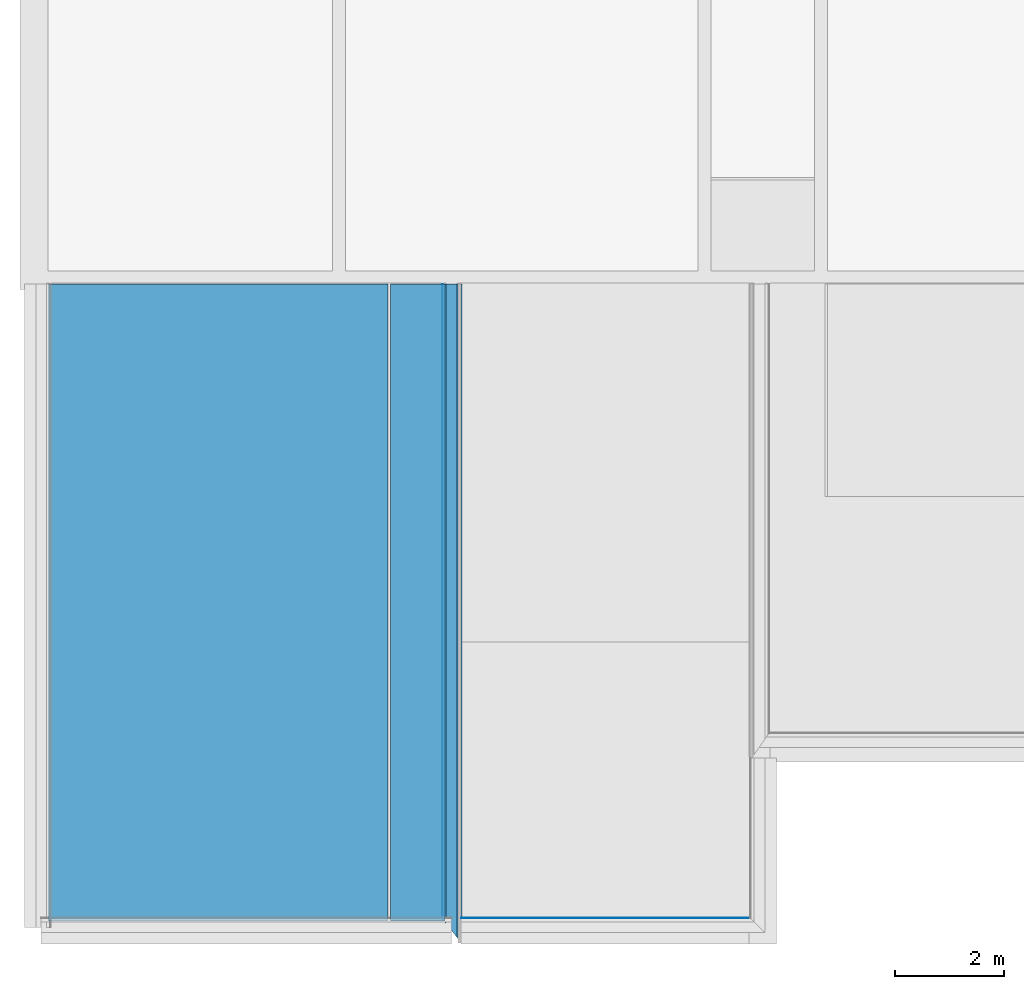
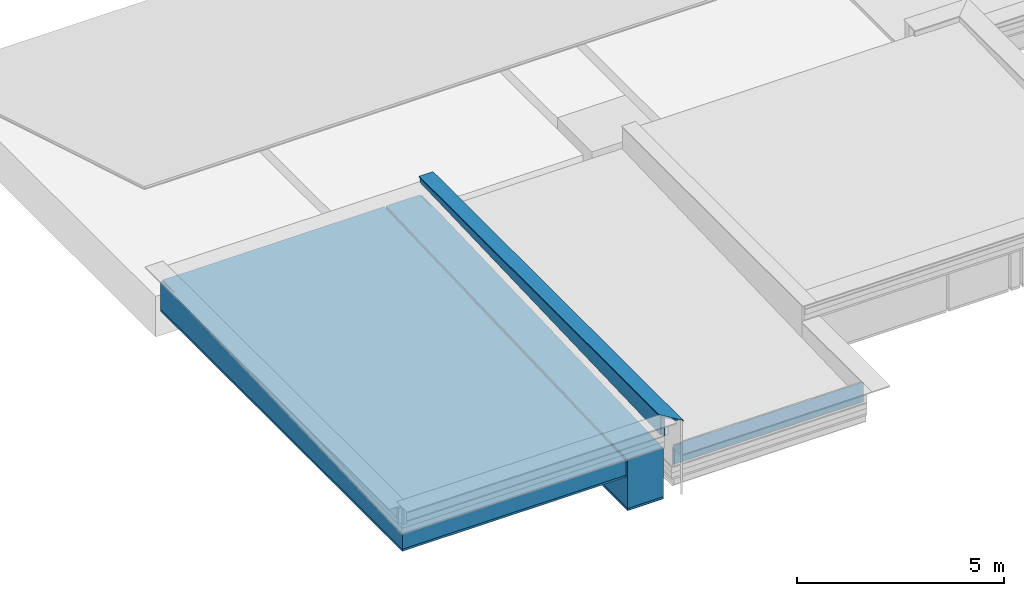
# One storey, part 2 of 13: 10 building element parts, 4 elements without a shape of their own.
"""IFC2X3 building model written with IfcOpenShell, lengths in metres."""

import ifcopenshell
import ifcopenshell.guid

model = None  # the IFC model being written
_history = None  # IfcOwnerHistory: only IFC2X3 demands one
_inside = {}  # id of a spatial element -> (the spatial element, [elements in it])
_under = {}  # id of a project, library or spatial element -> (it, [spatial elements below it])
_declared = {}  # id of a project -> (the project, [libraries it declares])
_typed = {}  # id of a type object -> (the type object, [elements of that type])
_made_of = {}  # id of a material, layer set ... -> (it, [elements and type objects made of it])


def new_model(schema):
    """Start an empty IFC model of exactly this schema.

    Asked for "IFC4X3", IfcOpenShell would pick the latest addendum, in which some entities
    have other attributes; the version numbers below select the first issue.
    IFC2X3 requires an IfcOwnerHistory on every rooted entity: one is made here for all.
    """
    global model, _history
    if schema == "IFC4X3":
        model = ifcopenshell.file(schema_version=(4, 3, 0, 0))
    else:
        model = ifcopenshell.file(schema=schema)
    _inside.clear()
    _under.clear()
    _declared.clear()
    _typed.clear()
    _made_of.clear()
    _history = None
    if model.schema == "IFC2X3":
        org = make("IfcOrganization", Name="unknown")
        user = make(
            "IfcPersonAndOrganization",
            ThePerson=make("IfcPerson", FamilyName="unknown"),
            TheOrganization=org,
        )
        app = make(
            "IfcApplication",
            ApplicationDeveloper=org,
            Version="unknown",
            ApplicationFullName="unknown",
            ApplicationIdentifier="unknown",
        )
        _history = make(
            "IfcOwnerHistory",
            OwningUser=user,
            OwningApplication=app,
            ChangeAction="ADDED",
            CreationDate=0,
        )
    return model


def make(cls, **values):
    """One entity of the class cls with the attributes given. An attribute that is None is left unset."""
    return model.create_entity(
        cls, **{name: value for name, value in values.items() if value is not None}
    )


def entity(cls, *values):
    """Any entity or typed value of the class cls, its attributes in the order of the schema. None: left unset."""
    e = model.create_entity(cls)
    for i, value in enumerate(values):
        if value is not None:
            e[i] = value
    return e


def rooted(cls, **values):
    """An entity with a GlobalId (a new one), such as an element, a storey or a relation."""
    return make(cls, GlobalId=ifcopenshell.guid.new(), OwnerHistory=_history, **values)


def si_unit(unit_type, name, prefix=None):
    """IfcSIUnit, for example si_unit("LENGTHUNIT", "METRE", prefix="MILLI")."""
    return make("IfcSIUnit", UnitType=unit_type, Prefix=prefix, Name=name)


def converted_unit(unit_type, name, factor, base, dimensions=None, offset=None):
    """IfcConversionBasedUnit, such as the inch: factor (a typed value) times the base unit."""
    return make(
        "IfcConversionBasedUnit"
        if offset is None
        else "IfcConversionBasedUnitWithOffset",
        ConversionOffset=offset,
        Dimensions=None
        if dimensions is None
        else entity("IfcDimensionalExponents", *dimensions),
        UnitType=unit_type,
        Name=name,
        ConversionFactor=make(
            "IfcMeasureWithUnit", ValueComponent=factor, UnitComponent=base
        ),
    )


def derived_unit(unit_type, elements):
    """IfcDerivedUnit: a product of units, each with its exponent."""
    return make(
        "IfcDerivedUnit",
        Elements=[
            make("IfcDerivedUnitElement", Unit=unit, Exponent=power)
            for unit, power in elements
        ],
        UnitType=unit_type,
    )


def money_unit(currency):
    """IfcMonetaryUnit."""
    return make("IfcMonetaryUnit", Currency=currency)


def assignment(units):
    """IfcUnitAssignment: the units of a project."""
    return None if units is None else make("IfcUnitAssignment", Units=units)


def point(xyz):
    """IfcCartesianPoint."""
    return None if xyz is None else make("IfcCartesianPoint", Coordinates=xyz)


def direction(xyz):
    """IfcDirection."""
    return None if xyz is None else make("IfcDirection", DirectionRatios=xyz)


def frame(location, z_axis=None, x_axis=None):
    """IfcAxis2Placement3D, a coordinate frame: its origin and axes. An axis left out is left unset."""
    return make(
        "IfcAxis2Placement3D",
        Location=point(location),
        Axis=direction(z_axis),
        RefDirection=direction(x_axis),
    )


def origin_with_axes():
    """The frame at (0, 0, 0) with the z axis (0, 0, 1) and the x axis (1, 0, 0) written out."""
    return frame((0.0, 0.0, 0.0), z_axis=(0.0, 0.0, 1.0), x_axis=(1.0, 0.0, 0.0))


def place(relative_to, where):
    """IfcLocalPlacement: puts the frame where relative to a parent placement (None: the world)."""
    return make(
        "IfcLocalPlacement", PlacementRelTo=relative_to, RelativePlacement=where
    )


def context(
    kind, dimensions, precision=None, world=None, true_north=None, identifier=None
):
    """IfcGeometricRepresentationContext, for example the 3D "Model" context."""
    return make(
        "IfcGeometricRepresentationContext",
        ContextIdentifier=identifier,
        ContextType=kind,
        CoordinateSpaceDimension=dimensions,
        Precision=precision,
        WorldCoordinateSystem=world,
        TrueNorth=true_north,
    )


def subcontext(parent, identifier, kind, view, scale=None):
    """IfcGeometricRepresentationSubContext, for example "Body" below "Model"."""
    return make(
        "IfcGeometricRepresentationSubContext",
        ContextIdentifier=identifier,
        ContextType=kind,
        ParentContext=parent,
        TargetScale=scale,
        TargetView=view,
    )


def project(units=None, contexts=None):
    """IfcProject with its units and contexts."""
    return rooted(
        "IfcProject",
        Name="project",
        RepresentationContexts=contexts,
        UnitsInContext=assignment(units),
    )


def spatial(cls, under=None, at=None, **own):
    """A site, building, storey or space (cls), placed at a placement, below another one or the project."""
    s = rooted(cls, ObjectPlacement=at, **own)
    if under is not None:
        _under.setdefault(under.id(), (under, []))[1].append(s)
    return s


def polyline(points):
    """IfcPolyline through the points."""
    return make("IfcPolyline", Points=[point(p) for p in points])


def outline(outer, holes=None, kind="AREA"):
    """IfcArbitraryClosedProfileDef: a profile drawn as a closed curve; with holes, ...WithVoids."""
    if holes is None:
        return make("IfcArbitraryClosedProfileDef", ProfileType=kind, OuterCurve=outer)
    return make(
        "IfcArbitraryProfileDefWithVoids",
        ProfileType=kind,
        OuterCurve=outer,
        InnerCurves=holes,
    )


def extrude(swept, where, along, depth):
    """IfcExtrudedAreaSolid: the profile swept, set in the frame where, extruded along a direction by depth."""
    return make(
        "IfcExtrudedAreaSolid",
        SweptArea=swept,
        Position=where,
        ExtrudedDirection=direction(along),
        Depth=depth,
    )


def boolean(op, a, b):
    """IfcBooleanResult of two solids."""
    return make("IfcBooleanResult", Operator=op, FirstOperand=a, SecondOperand=b)


def faces_of(points, faces, orient=None, outer=None):
    """IfcFace entities. A face is a list of loops; a loop is a list of indices into points, from 0.

    orient and outer hold one flag for each loop. By default every Orientation is true, the
    first loop of a face is its IfcFaceOuterBound and the others are IfcFaceBound.
    """
    made = []
    for i, loops in enumerate(faces):
        bounds = []
        for j, loop in enumerate(loops):
            is_outer = j == 0 if outer is None else outer[i][j]
            bounds.append(
                make(
                    "IfcFaceOuterBound" if is_outer else "IfcFaceBound",
                    Bound=make("IfcPolyLoop", Polygon=[points[k] for k in loop]),
                    Orientation=True if orient is None else orient[i][j],
                )
            )
        made.append(make("IfcFace", Bounds=bounds))
    return made


def faceted_brep(points, faces, orient=None, outer=None, voids=None):
    """IfcFacetedBrep: a solid bounded by flat faces; with voids (closed shells), ...WithVoids."""
    shared = [point(p) for p in points]
    hull = make("IfcClosedShell", CfsFaces=faces_of(shared, faces, orient, outer))
    if voids is None:
        return make("IfcFacetedBrep", Outer=hull)
    return make(
        "IfcFacetedBrepWithVoids",
        Outer=hull,
        Voids=[
            make(cls, CfsFaces=faces_of(shared, fs, o, b)) for cls, fs, o, b in voids
        ],
    )


def shape(context_of_items, identifier, shape_type, items):
    """IfcShapeRepresentation: the items that make up one representation, for example the "Body"."""
    return make(
        "IfcShapeRepresentation",
        ContextOfItems=context_of_items,
        RepresentationIdentifier=identifier,
        RepresentationType=shape_type,
        Items=items,
    )


def material(Name=None, Category=None):
    """IfcMaterial."""
    return make("IfcMaterial", Name=Name, Category=Category)


def made_of(thing, what):
    """Note that an element or type object is made of a material, layer set ...; save() writes the relation."""
    if what is not None:
        _made_of.setdefault(what.id(), (what, []))[1].append(thing)
    return thing


def type_object(cls, material=None, **own):
    """A type object (cls), such as IfcWallType, which elements share."""
    return made_of(rooted(cls, **own), material)


def element(
    cls,
    number,
    at=None,
    inside=None,
    cuts=None,
    type_object=None,
    material=None,
    context=None,
    identifier="Body",
    shape_type=None,
    held_by="IfcProductDefinitionShape",
    body=None,
    shapes=None,
    **own,
):
    """One element of the class cls, such as IfcWall. Its Tag is "e" and its number.

    at: its placement. inside: the storey or other place that contains it. cuts: it is an
    opening in that element (IfcRelVoidsElement). A single representation is given by context,
    identifier, shape_type and body (its items); several are given by shapes. held_by: the class
    of the entity that holds the representations. save() writes the other relations.
    """
    e = rooted(cls, Tag="e%d" % number, ObjectPlacement=at, **own)
    if body is not None:
        shapes = [shape(context, identifier, shape_type, body)]
    if shapes is not None:
        e.Representation = make(held_by, Representations=shapes)
    if inside is not None:
        _inside.setdefault(inside.id(), (inside, []))[1].append(e)
    if cuts is not None:
        rooted(
            "IfcRelVoidsElement", RelatingBuildingElement=cuts, RelatedOpeningElement=e
        )
    if type_object is not None:
        _typed.setdefault(type_object.id(), (type_object, []))[1].append(e)
    return made_of(e, material)


def aggregate(whole, parts):
    """IfcRelAggregates: a whole, such as a stair, and the parts it consists of."""
    return rooted("IfcRelAggregates", RelatingObject=whole, RelatedObjects=parts)


def save(model, path):
    """Write the relations noted so far, then the file.

    IfcRelAggregates (storeys below a building ...), IfcRelContainedInSpatialStructure (elements
    in a storey), IfcRelDefinesByType, IfcRelAssociatesMaterial and IfcRelDeclares: one each for
    every whole, place, type object, material and project.
    """
    for whole, parts in _under.values():
        aggregate(whole, parts)
    for where, things in _inside.values():
        rooted(
            "IfcRelContainedInSpatialStructure",
            RelatedElements=things,
            RelatingStructure=where,
        )
    for kind, things in _typed.values():
        rooted("IfcRelDefinesByType", RelatedObjects=things, RelatingType=kind)
    for what, things in _made_of.values():
        rooted("IfcRelAssociatesMaterial", RelatedObjects=things, RelatingMaterial=what)
    for by, libraries in _declared.values():
        rooted("IfcRelDeclares", RelatingContext=by, RelatedDefinitions=libraries)
    model.write(path)


model = new_model("IFC2X3")

# Units and contexts
model_context = context("Model", 3, precision=1e-05, world=origin_with_axes(), true_north=direction((0.0, 1.0)))
body_context = subcontext(model_context, "Body", "Model", "MODEL_VIEW")
ifc_project = project(units=[si_unit("LENGTHUNIT", "METRE"), si_unit("AREAUNIT", "SQUARE_METRE"), si_unit("VOLUMEUNIT", "CUBIC_METRE"), converted_unit("PLANEANGLEUNIT", "DEGREE", entity("IfcPlaneAngleMeasure", 0.0174532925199), si_unit("PLANEANGLEUNIT", "RADIAN"), dimensions=[0, 0, 0, 0, 0, 0, 0]), money_unit("CHF"), converted_unit("TIMEUNIT", "Year", entity("IfcTimeMeasure", 31556926.0), si_unit("TIMEUNIT", "SECOND"), dimensions=[0, 0, 1, 0, 0, 0, 0]), si_unit("MASSUNIT", "GRAM", prefix="KILO"), si_unit("THERMODYNAMICTEMPERATUREUNIT", "DEGREE_CELSIUS"), si_unit("LUMINOUSINTENSITYUNIT", "LUMEN"), si_unit("ENERGYUNIT", "JOULE", prefix="MEGA"), derived_unit("THERMALCONDUCTANCEUNIT", [(si_unit("POWERUNIT", "WATT"), 1), (si_unit("LENGTHUNIT", "METRE"), -1), (si_unit("THERMODYNAMICTEMPERATUREUNIT", "KELVIN"), -1)]), derived_unit("SPECIFICHEATCAPACITYUNIT", [(si_unit("ENERGYUNIT", "JOULE"), 1), (si_unit("MASSUNIT", "GRAM", prefix="KILO"), -1), (si_unit("THERMODYNAMICTEMPERATUREUNIT", "KELVIN"), -1)]), derived_unit("MASSDENSITYUNIT", [(si_unit("MASSUNIT", "GRAM", prefix="KILO"), 1), (si_unit("VOLUMEUNIT", "CUBIC_METRE"), -1)])], contexts=[model_context])

# Site, building, storey
site_placement = place(None, origin_with_axes())
site = spatial("IfcSite", under=ifc_project, at=site_placement, Name="Site", CompositionType="ELEMENT")
building_placement = place(site_placement, origin_with_axes())
building = spatial("IfcBuilding", under=site, at=building_placement, Name="Bâtiment", CompositionType="ELEMENT")
storey_placement = place(building_placement, frame((0.0, 0.0, 3.0), z_axis=(0.0, 0.0, 1.0), x_axis=(1.0, 0.0, 0.0)))
storey = spatial("IfcBuildingStorey", under=building, at=storey_placement, Name="Toitures", CompositionType="ELEMENT", Elevation=3.0)

# Slab, building element parts
slab_type = type_object("IfcSlabType", Name="Plafond dalles minérale 2570", PredefinedType="FLOOR")
slab_1_placement = place(storey_placement, frame((11.2694697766, 14.88, 3.07), z_axis=(0.0, 0.0, 1.0), x_axis=(1.0, 0.0, 0.0)))
slab_1 = element("IfcSlab", 1, at=slab_1_placement, inside=storey, type_object=slab_type, Name="Plafond acoustique suspendu", PredefinedType="FLOOR")
ifc_material_1 = material(Name="Aluminium")
building_element_part_1_placement = place(slab_1_placement, origin_with_axes())
building_element_part_1 = element("IfcBuildingElementPart", 2, at=building_element_part_1_placement, material=ifc_material_1, Name="Aluminium", context=body_context, shape_type="CSG", body=[
    boolean("DIFFERENCE", extrude(outline(polyline([(0.0, 0.0), (0.0, -11.6998344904), (6.25, -11.6998344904), (6.25, 0.0), (0.0, 0.0)])), frame((0.0, 0.0, -2.56), z_axis=(0.0, 0.0, 1.0), x_axis=(1.0, 0.0, 0.0)), (0.0, 0.0, 1.0), 0.06), faceted_brep([(6.25, -11.6998344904, -2.06519420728), (6.25, 0.0, -1.65570000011), (6.25, 0.0, 0.0), (6.25, -11.6998344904, 0.0), (0.0549999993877, 0.0, -1.65570000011), (0.0, -11.6998344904, -2.06519420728), (0.0, -0.969704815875, -1.68963966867), (0.0549999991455, -0.969704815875, -1.68963966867), (0.0549999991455, 0.0, -1.68963966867), (0.0, 0.0, -1.68963966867), (0.0, 0.0, 0.0), (0.0, -11.6998344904, 0.0)], [[[0, 1, 2, 3]], [[4, 1, 0, 5, 6, 7]], [[8, 9, 10, 2, 1, 4]], [[3, 2, 10, 11]], [[5, 0, 3, 11]], [[6, 5, 11, 10, 9]], [[9, 8, 7, 6]], [[8, 4, 7]]])),
])
ifc_material_2 = material(Name="Vide faux plafond")
building_element_part_2_placement = place(slab_1_placement, origin_with_axes())
building_element_part_2 = element("IfcBuildingElementPart", 3, at=building_element_part_2_placement, material=ifc_material_2, Name="Vide faux plafond", context=body_context, shape_type="CSG", body=[
    boolean("DIFFERENCE", extrude(outline(polyline([(0.0, 0.0), (0.0, -11.6998344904), (6.25, -11.6998344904), (6.25, 0.0), (0.0, 0.0)])), frame((0.0, 0.0, -2.5), z_axis=(0.0, 0.0, 1.0), x_axis=(1.0, 0.0, 0.0)), (0.0, 0.0, 1.0), 2.5), faceted_brep([(6.25, -11.6998344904, -2.06519420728), (6.25, 0.0, -1.65570000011), (6.25, 0.0, 0.0), (6.25, -11.6998344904, 0.0), (0.0549999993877, 0.0, -1.65570000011), (0.0, -11.6998344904, -2.06519420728), (0.0, -0.969704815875, -1.68963966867), (0.0549999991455, -0.969704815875, -1.68963966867), (0.0549999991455, 0.0, -1.68963966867), (0.0, 0.0, -1.68963966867), (0.0, 0.0, 0.0), (0.0, -11.6998344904, 0.0)], [[[0, 1, 2, 3]], [[4, 1, 0, 5, 6, 7]], [[8, 9, 10, 2, 1, 4]], [[3, 2, 10, 11]], [[5, 0, 3, 11]], [[6, 5, 11, 10, 9]], [[9, 8, 7, 6]], [[8, 4, 7]]])),
])
aggregate(slab_1, [building_element_part_1, building_element_part_2])

slab_2_placement = place(storey_placement, frame((17.5694697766, 14.88, 2.07), z_axis=(0.0, 0.0, 1.0), x_axis=(1.0, 0.0, 0.0)))
slab_2 = element("IfcSlab", 4, at=slab_2_placement, inside=storey, type_object=slab_type, Name="DALLE-005", PredefinedType="FLOOR")
ifc_material_3 = material(Name="Plaque fibre-gypse")
building_element_part_3_placement = place(slab_2_placement, origin_with_axes())
building_element_part_3 = element("IfcBuildingElementPart", 5, at=building_element_part_3_placement, material=ifc_material_3, Name="Plaque fibre-gypse", context=body_context, shape_type="CSG", body=[
    boolean("DIFFERENCE", extrude(outline(polyline([(0.0, 0.0), (0.0, -11.6998344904), (1.0, -11.6998344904), (1.0, 0.0), (0.0, 0.0)])), frame((0.0, 0.0, -2.57), z_axis=(0.0, 0.0, 1.0), x_axis=(1.0, 0.0, 0.0)), (0.0, 0.0, 1.0), 0.01), faceted_brep([(1.0, -11.6998344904, -1.06519420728), (1.0, -0.969704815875, -0.689639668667), (1.0, 0.0, -0.689639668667), (1.0, 0.0, 0.0), (1.0, -11.6998344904, 0.0), (0.0, -11.6998344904, -1.06519420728), (0.0, 0.0, -0.655700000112), (0.945, 0.0, -0.655700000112), (0.945, -0.969704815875, -0.689639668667), (0.945, 0.0, -0.689639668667), (0.0, 0.0, 0.0), (0.0, -11.6998344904, 0.0)], [[[0, 1, 2, 3, 4]], [[1, 0, 5, 6, 7, 8]], [[9, 2, 1, 8]], [[7, 6, 10, 3, 2, 9]], [[4, 3, 10, 11]], [[5, 0, 4, 11]], [[6, 5, 11, 10]], [[7, 9, 8]]])),
])
building_element_part_4_placement = place(slab_2_placement, origin_with_axes())
building_element_part_4 = element("IfcBuildingElementPart", 6, at=building_element_part_4_placement, material=ifc_material_1, Name="Aluminium", context=body_context, shape_type="CSG", body=[
    boolean("DIFFERENCE", extrude(outline(polyline([(0.0, 0.0), (0.0, -11.6998344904), (1.0, -11.6998344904), (1.0, 0.0), (0.0, 0.0)])), frame((0.0, 0.0, -2.56), z_axis=(0.0, 0.0, 1.0), x_axis=(1.0, 0.0, 0.0)), (0.0, 0.0, 1.0), 0.06), faceted_brep([(1.0, -11.6998344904, -1.06519420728), (1.0, -0.969704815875, -0.689639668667), (1.0, 0.0, -0.689639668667), (1.0, 0.0, 0.0), (1.0, -11.6998344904, 0.0), (0.0, -11.6998344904, -1.06519420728), (0.0, 0.0, -0.655700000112), (0.945, 0.0, -0.655700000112), (0.945, -0.969704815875, -0.689639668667), (0.945, 0.0, -0.689639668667), (0.0, 0.0, 0.0), (0.0, -11.6998344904, 0.0)], [[[0, 1, 2, 3, 4]], [[1, 0, 5, 6, 7, 8]], [[9, 2, 1, 8]], [[7, 6, 10, 3, 2, 9]], [[4, 3, 10, 11]], [[5, 0, 4, 11]], [[6, 5, 11, 10]], [[7, 9, 8]]])),
])
building_element_part_5_placement = place(slab_2_placement, origin_with_axes())
building_element_part_5 = element("IfcBuildingElementPart", 7, at=building_element_part_5_placement, material=ifc_material_2, Name="Vide faux plafond", context=body_context, shape_type="CSG", body=[
    boolean("DIFFERENCE", extrude(outline(polyline([(0.0, 0.0), (0.0, -11.6998344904), (1.0, -11.6998344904), (1.0, 0.0), (0.0, 0.0)])), frame((0.0, 0.0, -2.5), z_axis=(0.0, 0.0, 1.0), x_axis=(1.0, 0.0, 0.0)), (0.0, 0.0, 1.0), 2.5), faceted_brep([(1.0, -11.6998344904, -1.06519420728), (1.0, -0.969704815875, -0.689639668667), (1.0, 0.0, -0.689639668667), (1.0, 0.0, 0.0), (1.0, -11.6998344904, 0.0), (0.0, -11.6998344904, -1.06519420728), (0.0, 0.0, -0.655700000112), (0.945, 0.0, -0.655700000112), (0.945, -0.969704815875, -0.689639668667), (0.945, 0.0, -0.689639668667), (0.0, 0.0, 0.0), (0.0, -11.6998344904, 0.0)], [[[0, 1, 2, 3, 4]], [[1, 0, 5, 6, 7, 8]], [[9, 2, 1, 8]], [[7, 6, 10, 3, 2, 9]], [[4, 3, 10, 11]], [[5, 0, 4, 11]], [[6, 5, 11, 10]], [[7, 9, 8]]])),
])
aggregate(slab_2, [building_element_part_3, building_element_part_4, building_element_part_5])

# Beam, building element parts
beam_type_1 = type_object("IfcBeamType", Name="Couvertine mur  390 x 590", PredefinedType="BEAM")
beam_1_placement = place(storey_placement, frame((18.6894697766, 3.06016550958, 1.97), z_axis=(0.0, 0.0, 1.0), x_axis=(1.0, 0.0, 0.0)))
beam_1 = element("IfcBeam", 8, at=beam_1_placement, inside=storey, type_object=beam_type_1, Name="POUTRE-001", ObjectType="BEAM")
ifc_material_4 = material(Name="Etanchéité")
building_element_part_6_placement = place(beam_1_placement, origin_with_axes())
building_element_part_6 = element("IfcBuildingElementPart", 9, at=building_element_part_6_placement, material=ifc_material_4, Name="Etanchéité", context=body_context, shape_type="CSG", body=[
    boolean("DIFFERENCE", boolean("DIFFERENCE", boolean("DIFFERENCE", boolean("DIFFERENCE", boolean("DIFFERENCE", boolean("DIFFERENCE", extrude(outline(polyline([(-0.175, -0.589639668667), (-0.165000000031, -0.589639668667), (-0.165000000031, -0.0549999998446), (-0.165000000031, -0.005), (-0.175, -0.005), (-0.175, -0.589639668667)])), frame((0.0, 11.8198344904, 0.0), z_axis=(0.0, -1.0, 0.0), x_axis=(1.0, 0.0, 0.0)), (0.0, 0.0, 1.0), 12.1298544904), faceted_brep([(-0.165000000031, 0.156153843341, -0.0549999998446), (-0.165000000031, 0.156153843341, -0.005), (-0.165000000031, -0.31002, -0.005), (-0.165000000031, -0.31002, -0.0549999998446), (-0.175, 0.169102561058, -0.005), (-0.165000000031, 0.156153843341, -0.589639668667), (-0.175, 0.169102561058, -0.589639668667), (-0.175, -0.31002, -0.005), (-0.175, -0.31002, -0.589639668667), (-0.165000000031, -0.31002, -0.589639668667)], [[[0, 1, 2, 3]], [[4, 1, 0, 5, 6]], [[1, 4, 7, 2]], [[2, 7, 8, 9, 3]], [[5, 0, 3, 9]], [[6, 5, 9, 8]], [[4, 6, 8, 7]]])), faceted_brep([(-0.175, 11.8198344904, -0.185473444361), (-0.165000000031, 11.8198344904, -0.185473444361), (-0.165000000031, 11.8198344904, -0.589639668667), (-0.175, 11.8198344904, -0.589639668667), (-0.165000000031, 0.272228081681, -0.589639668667), (-0.175, 0.272228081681, -0.589639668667)], [[[0, 1, 2, 3]], [[4, 1, 0, 5]], [[1, 4, 2]], [[4, 5, 3, 2]], [[5, 0, 3]]])), faceted_brep([(0.195000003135, -0.31002, -0.0300000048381), (0.195000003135, -0.31, -0.0300000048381), (0.195000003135, -0.31, 2.8375835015e-09), (0.195000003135, -0.31002, 2.8375835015e-09), (0.190000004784, -0.31002, -0.0300000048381), (0.190000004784, -0.303525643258, -0.0300000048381), (-0.195, 0.194999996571, -0.0300000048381), (-0.195, 0.194999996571, 2.83758261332e-09), (0.190000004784, -0.303525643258, -0.00500000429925), (0.0999999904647, -0.186987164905, -0.005), (-0.165, 0.156153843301, -0.005), (-0.174999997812, 0.169102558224, -0.00500000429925), (-0.190000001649, 0.188525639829, -0.00500000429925), (-0.190000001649, 0.188525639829, -0.0300000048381), (-0.195, -0.31002, 2.8375835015e-09), (-0.195, -0.31002, -0.0300000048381), (-0.190000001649, -0.31002, -0.0300000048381), (-0.190000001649, -0.31002, -0.00500000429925), (-0.174999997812, -0.31002, -0.00500000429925), (-0.165000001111, -0.31002, -0.00500000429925), (0.0999999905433, -0.31002, -0.00500000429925), (0.190000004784, -0.31002, -0.00500000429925)], [[[0, 1, 2, 3]], [[4, 5, 1, 0]], [[6, 7, 2, 1, 5, 8, 9, 10, 11, 12, 13]], [[3, 2, 7, 14]], [[3, 14, 15, 16, 17, 18, 19, 20, 21, 4, 0]], [[21, 8, 5, 4]], [[14, 7, 6, 15]], [[20, 9, 8, 21]], [[19, 10, 9, 20]], [[18, 11, 10, 19]], [[17, 12, 11, 18]], [[16, 13, 12, 17]], [[15, 6, 13, 16]]])), faceted_brep([(0.0999999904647, -0.31002, -0.0549999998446), (0.0999999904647, -0.186987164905, -0.0549999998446), (0.0999999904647, -0.186987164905, -0.005), (0.0999999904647, -0.31002, -0.005), (-0.0999999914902, -0.31002, -0.0549999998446), (-0.0999999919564, 0.071987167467, -0.055), (-0.165, 0.156153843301, -0.005), (-0.165, 0.156153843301, -0.0549999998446), (-0.165, -0.31002, -0.005), (-0.165, -0.31002, -0.0549999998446)], [[[0, 1, 2, 3]], [[4, 5, 1, 0]], [[6, 2, 1, 5, 7]], [[3, 2, 6, 8]], [[0, 3, 8, 9, 4]], [[9, 7, 5, 4]], [[8, 6, 7, 9]]])), faceted_brep([(-0.0999999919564, -0.31002, -0.589639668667), (-0.0999999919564, 0.071987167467, -0.589639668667), (-0.0999999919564, 0.071987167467, -0.055), (-0.0999999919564, -0.31002, -0.055), (-0.165, -0.31002, -0.589639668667), (-0.165, 0.156153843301, -0.589639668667), (-0.165, 0.156153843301, -0.055), (-0.165, -0.31002, -0.055)], [[[0, 1, 2, 3]], [[4, 5, 1, 0]], [[5, 6, 2, 1]], [[3, 2, 6, 7]], [[4, 0, 3, 7]], [[7, 6, 5, 4]]])), faceted_brep([(-0.165, 11.8198344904, -0.589639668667), (-0.165, 11.8198344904, -0.185473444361), (-0.1, 11.8198344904, -0.185473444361), (-0.0999999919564, 11.8198344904, -0.589639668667), (-0.165, 0.272228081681, -0.589639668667), (-0.1, 0.272228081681, -0.589639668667)], [[[0, 1, 2, 3]], [[0, 4, 1]], [[4, 5, 2, 1]], [[3, 2, 5]], [[3, 5, 4, 0]]])),
])
building_element_part_7_placement = place(beam_1_placement, origin_with_axes())
building_element_part_7 = element("IfcBuildingElementPart", 10, at=building_element_part_7_placement, material=ifc_material_1, Name="Aluminium", context=body_context, shape_type="CSG", body=[
    boolean("DIFFERENCE", boolean("DIFFERENCE", boolean("DIFFERENCE", boolean("DIFFERENCE", boolean("DIFFERENCE", boolean("DIFFERENCE", extrude(outline(polyline([(-0.195, -0.0300000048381), (-0.190000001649, -0.0300000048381), (-0.190000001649, -0.00500000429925), (-0.174999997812, -0.00500000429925), (-0.165000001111, -0.00500000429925), (0.0999999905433, -0.00500000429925), (0.190000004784, -0.00500000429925), (0.190000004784, -0.0300000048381), (0.195000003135, -0.0300000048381), (0.195000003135, 2.83758305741e-09), (-0.195, 2.83758305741e-09), (-0.195, -0.0300000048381)])), frame((0.0, 11.8198344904, 0.0), z_axis=(0.0, -1.0, 0.0), x_axis=(1.0, 0.0, 0.0)), (0.0, 0.0, 1.0), 12.1298544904), faceted_brep([(-0.165000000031, 0.156153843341, -0.0549999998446), (-0.165000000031, 0.156153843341, -0.005), (-0.165000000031, -0.31002, -0.005), (-0.165000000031, -0.31002, -0.0549999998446), (-0.175, 0.169102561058, -0.005), (-0.165000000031, 0.156153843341, -0.589639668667), (-0.175, 0.169102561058, -0.589639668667), (-0.175, -0.31002, -0.005), (-0.175, -0.31002, -0.589639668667), (-0.165000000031, -0.31002, -0.589639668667)], [[[0, 1, 2, 3]], [[4, 1, 0, 5, 6]], [[1, 4, 7, 2]], [[2, 7, 8, 9, 3]], [[5, 0, 3, 9]], [[6, 5, 9, 8]], [[4, 6, 8, 7]]])), faceted_brep([(-0.175, 11.8198344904, -0.185473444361), (-0.165000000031, 11.8198344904, -0.185473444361), (-0.165000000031, 11.8198344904, -0.589639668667), (-0.175, 11.8198344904, -0.589639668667), (-0.165000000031, 0.272228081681, -0.589639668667), (-0.175, 0.272228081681, -0.589639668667)], [[[0, 1, 2, 3]], [[4, 1, 0, 5]], [[1, 4, 2]], [[4, 5, 3, 2]], [[5, 0, 3]]])), faceted_brep([(0.195000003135, -0.31002, -0.0300000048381), (0.195000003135, -0.31, -0.0300000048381), (0.195000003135, -0.31, 2.8375835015e-09), (0.195000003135, -0.31002, 2.8375835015e-09), (0.190000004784, -0.31002, -0.0300000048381), (0.190000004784, -0.303525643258, -0.0300000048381), (-0.195, 0.194999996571, -0.0300000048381), (-0.195, 0.194999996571, 2.83758261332e-09), (0.190000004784, -0.303525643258, -0.00500000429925), (0.0999999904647, -0.186987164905, -0.005), (-0.165, 0.156153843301, -0.005), (-0.174999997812, 0.169102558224, -0.00500000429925), (-0.190000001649, 0.188525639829, -0.00500000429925), (-0.190000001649, 0.188525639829, -0.0300000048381), (-0.195, -0.31002, 2.8375835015e-09), (-0.195, -0.31002, -0.0300000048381), (-0.190000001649, -0.31002, -0.0300000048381), (-0.190000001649, -0.31002, -0.00500000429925), (-0.174999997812, -0.31002, -0.00500000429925), (-0.165000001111, -0.31002, -0.00500000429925), (0.0999999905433, -0.31002, -0.00500000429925), (0.190000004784, -0.31002, -0.00500000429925)], [[[0, 1, 2, 3]], [[4, 5, 1, 0]], [[6, 7, 2, 1, 5, 8, 9, 10, 11, 12, 13]], [[3, 2, 7, 14]], [[3, 14, 15, 16, 17, 18, 19, 20, 21, 4, 0]], [[21, 8, 5, 4]], [[14, 7, 6, 15]], [[20, 9, 8, 21]], [[19, 10, 9, 20]], [[18, 11, 10, 19]], [[17, 12, 11, 18]], [[16, 13, 12, 17]], [[15, 6, 13, 16]]])), faceted_brep([(0.0999999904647, -0.31002, -0.0549999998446), (0.0999999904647, -0.186987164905, -0.0549999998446), (0.0999999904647, -0.186987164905, -0.005), (0.0999999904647, -0.31002, -0.005), (-0.0999999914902, -0.31002, -0.0549999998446), (-0.0999999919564, 0.071987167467, -0.055), (-0.165, 0.156153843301, -0.005), (-0.165, 0.156153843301, -0.0549999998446), (-0.165, -0.31002, -0.005), (-0.165, -0.31002, -0.0549999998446)], [[[0, 1, 2, 3]], [[4, 5, 1, 0]], [[6, 2, 1, 5, 7]], [[3, 2, 6, 8]], [[0, 3, 8, 9, 4]], [[9, 7, 5, 4]], [[8, 6, 7, 9]]])), faceted_brep([(-0.0999999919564, -0.31002, -0.589639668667), (-0.0999999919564, 0.071987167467, -0.589639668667), (-0.0999999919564, 0.071987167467, -0.055), (-0.0999999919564, -0.31002, -0.055), (-0.165, -0.31002, -0.589639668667), (-0.165, 0.156153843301, -0.589639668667), (-0.165, 0.156153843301, -0.055), (-0.165, -0.31002, -0.055)], [[[0, 1, 2, 3]], [[4, 5, 1, 0]], [[5, 6, 2, 1]], [[3, 2, 6, 7]], [[4, 0, 3, 7]], [[7, 6, 5, 4]]])), faceted_brep([(-0.165, 11.8198344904, -0.589639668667), (-0.165, 11.8198344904, -0.185473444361), (-0.1, 11.8198344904, -0.185473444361), (-0.0999999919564, 11.8198344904, -0.589639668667), (-0.165, 0.272228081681, -0.589639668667), (-0.1, 0.272228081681, -0.589639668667)], [[[0, 1, 2, 3]], [[0, 4, 1]], [[4, 5, 2, 1]], [[3, 2, 5]], [[3, 5, 4, 0]]])),
])
ifc_material_5 = material(Name="Isolation - Polyuréthane (extérieur)")
building_element_part_8_placement = place(beam_1_placement, origin_with_axes())
building_element_part_8 = element("IfcBuildingElementPart", 11, at=building_element_part_8_placement, material=ifc_material_5, Name="Isolation - Polyuréthane (extérieur)", context=body_context, shape_type="CSG", body=[
    boolean("DIFFERENCE", boolean("DIFFERENCE", boolean("DIFFERENCE", boolean("DIFFERENCE", boolean("DIFFERENCE", boolean("DIFFERENCE", extrude(outline(polyline([(-0.165, -0.005), (-0.165, -0.0549999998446), (-0.0999999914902, -0.0549999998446), (0.0999999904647, -0.0549999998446), (0.0999999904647, -0.005), (-0.165, -0.005)])), frame((0.0, 11.8198344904, 0.0), z_axis=(0.0, -1.0, 0.0), x_axis=(1.0, 0.0, 0.0)), (0.0, 0.0, 1.0), 12.1298544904), faceted_brep([(-0.165000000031, 0.156153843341, -0.0549999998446), (-0.165000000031, 0.156153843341, -0.005), (-0.165000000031, -0.31002, -0.005), (-0.165000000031, -0.31002, -0.0549999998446), (-0.175, 0.169102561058, -0.005), (-0.165000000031, 0.156153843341, -0.589639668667), (-0.175, 0.169102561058, -0.589639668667), (-0.175, -0.31002, -0.005), (-0.175, -0.31002, -0.589639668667), (-0.165000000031, -0.31002, -0.589639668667)], [[[0, 1, 2, 3]], [[4, 1, 0, 5, 6]], [[1, 4, 7, 2]], [[2, 7, 8, 9, 3]], [[5, 0, 3, 9]], [[6, 5, 9, 8]], [[4, 6, 8, 7]]])), faceted_brep([(-0.175, 11.8198344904, -0.185473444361), (-0.165000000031, 11.8198344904, -0.185473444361), (-0.165000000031, 11.8198344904, -0.589639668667), (-0.175, 11.8198344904, -0.589639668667), (-0.165000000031, 0.272228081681, -0.589639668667), (-0.175, 0.272228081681, -0.589639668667)], [[[0, 1, 2, 3]], [[4, 1, 0, 5]], [[1, 4, 2]], [[4, 5, 3, 2]], [[5, 0, 3]]])), faceted_brep([(0.195000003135, -0.31002, -0.0300000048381), (0.195000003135, -0.31, -0.0300000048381), (0.195000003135, -0.31, 2.8375835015e-09), (0.195000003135, -0.31002, 2.8375835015e-09), (0.190000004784, -0.31002, -0.0300000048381), (0.190000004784, -0.303525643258, -0.0300000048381), (-0.195, 0.194999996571, -0.0300000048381), (-0.195, 0.194999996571, 2.83758261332e-09), (0.190000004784, -0.303525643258, -0.00500000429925), (0.0999999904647, -0.186987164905, -0.005), (-0.165, 0.156153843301, -0.005), (-0.174999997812, 0.169102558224, -0.00500000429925), (-0.190000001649, 0.188525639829, -0.00500000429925), (-0.190000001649, 0.188525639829, -0.0300000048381), (-0.195, -0.31002, 2.8375835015e-09), (-0.195, -0.31002, -0.0300000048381), (-0.190000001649, -0.31002, -0.0300000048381), (-0.190000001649, -0.31002, -0.00500000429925), (-0.174999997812, -0.31002, -0.00500000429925), (-0.165000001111, -0.31002, -0.00500000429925), (0.0999999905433, -0.31002, -0.00500000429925), (0.190000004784, -0.31002, -0.00500000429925)], [[[0, 1, 2, 3]], [[4, 5, 1, 0]], [[6, 7, 2, 1, 5, 8, 9, 10, 11, 12, 13]], [[3, 2, 7, 14]], [[3, 14, 15, 16, 17, 18, 19, 20, 21, 4, 0]], [[21, 8, 5, 4]], [[14, 7, 6, 15]], [[20, 9, 8, 21]], [[19, 10, 9, 20]], [[18, 11, 10, 19]], [[17, 12, 11, 18]], [[16, 13, 12, 17]], [[15, 6, 13, 16]]])), faceted_brep([(0.0999999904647, -0.31002, -0.0549999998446), (0.0999999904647, -0.186987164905, -0.0549999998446), (0.0999999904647, -0.186987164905, -0.005), (0.0999999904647, -0.31002, -0.005), (-0.0999999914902, -0.31002, -0.0549999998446), (-0.0999999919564, 0.071987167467, -0.055), (-0.165, 0.156153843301, -0.005), (-0.165, 0.156153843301, -0.0549999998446), (-0.165, -0.31002, -0.005), (-0.165, -0.31002, -0.0549999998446)], [[[0, 1, 2, 3]], [[4, 5, 1, 0]], [[6, 2, 1, 5, 7]], [[3, 2, 6, 8]], [[0, 3, 8, 9, 4]], [[9, 7, 5, 4]], [[8, 6, 7, 9]]])), faceted_brep([(-0.0999999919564, -0.31002, -0.589639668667), (-0.0999999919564, 0.071987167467, -0.589639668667), (-0.0999999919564, 0.071987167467, -0.055), (-0.0999999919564, -0.31002, -0.055), (-0.165, -0.31002, -0.589639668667), (-0.165, 0.156153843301, -0.589639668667), (-0.165, 0.156153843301, -0.055), (-0.165, -0.31002, -0.055)], [[[0, 1, 2, 3]], [[4, 5, 1, 0]], [[5, 6, 2, 1]], [[3, 2, 6, 7]], [[4, 0, 3, 7]], [[7, 6, 5, 4]]])), faceted_brep([(-0.165, 11.8198344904, -0.589639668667), (-0.165, 11.8198344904, -0.185473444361), (-0.1, 11.8198344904, -0.185473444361), (-0.0999999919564, 11.8198344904, -0.589639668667), (-0.165, 0.272228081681, -0.589639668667), (-0.1, 0.272228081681, -0.589639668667)], [[[0, 1, 2, 3]], [[0, 4, 1]], [[4, 5, 2, 1]], [[3, 2, 5]], [[3, 5, 4, 0]]])),
])
building_element_part_9_placement = place(beam_1_placement, origin_with_axes())
building_element_part_9 = element("IfcBuildingElementPart", 12, at=building_element_part_9_placement, material=ifc_material_5, Name="Isolation - Polyuréthane (extérieur)", context=body_context, shape_type="CSG", body=[
    boolean("DIFFERENCE", boolean("DIFFERENCE", boolean("DIFFERENCE", boolean("DIFFERENCE", boolean("DIFFERENCE", boolean("DIFFERENCE", extrude(outline(polyline([(-0.0999999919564, -0.055), (-0.165, -0.055), (-0.165, -0.589639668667), (-0.0999999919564, -0.589639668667), (-0.0999999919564, -0.055)])), frame((0.0, 11.8198344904, 0.0), z_axis=(0.0, -1.0, 0.0), x_axis=(1.0, 0.0, 0.0)), (0.0, 0.0, 1.0), 12.1298544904), faceted_brep([(-0.165000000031, 0.156153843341, -0.0549999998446), (-0.165000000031, 0.156153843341, -0.005), (-0.165000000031, -0.31002, -0.005), (-0.165000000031, -0.31002, -0.0549999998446), (-0.175, 0.169102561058, -0.005), (-0.165000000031, 0.156153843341, -0.589639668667), (-0.175, 0.169102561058, -0.589639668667), (-0.175, -0.31002, -0.005), (-0.175, -0.31002, -0.589639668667), (-0.165000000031, -0.31002, -0.589639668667)], [[[0, 1, 2, 3]], [[4, 1, 0, 5, 6]], [[1, 4, 7, 2]], [[2, 7, 8, 9, 3]], [[5, 0, 3, 9]], [[6, 5, 9, 8]], [[4, 6, 8, 7]]])), faceted_brep([(-0.175, 11.8198344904, -0.185473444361), (-0.165000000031, 11.8198344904, -0.185473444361), (-0.165000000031, 11.8198344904, -0.589639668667), (-0.175, 11.8198344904, -0.589639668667), (-0.165000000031, 0.272228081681, -0.589639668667), (-0.175, 0.272228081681, -0.589639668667)], [[[0, 1, 2, 3]], [[4, 1, 0, 5]], [[1, 4, 2]], [[4, 5, 3, 2]], [[5, 0, 3]]])), faceted_brep([(0.195000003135, -0.31002, -0.0300000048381), (0.195000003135, -0.31, -0.0300000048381), (0.195000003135, -0.31, 2.8375835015e-09), (0.195000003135, -0.31002, 2.8375835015e-09), (0.190000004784, -0.31002, -0.0300000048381), (0.190000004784, -0.303525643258, -0.0300000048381), (-0.195, 0.194999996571, -0.0300000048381), (-0.195, 0.194999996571, 2.83758261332e-09), (0.190000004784, -0.303525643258, -0.00500000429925), (0.0999999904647, -0.186987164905, -0.005), (-0.165, 0.156153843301, -0.005), (-0.174999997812, 0.169102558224, -0.00500000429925), (-0.190000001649, 0.188525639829, -0.00500000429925), (-0.190000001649, 0.188525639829, -0.0300000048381), (-0.195, -0.31002, 2.8375835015e-09), (-0.195, -0.31002, -0.0300000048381), (-0.190000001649, -0.31002, -0.0300000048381), (-0.190000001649, -0.31002, -0.00500000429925), (-0.174999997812, -0.31002, -0.00500000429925), (-0.165000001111, -0.31002, -0.00500000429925), (0.0999999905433, -0.31002, -0.00500000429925), (0.190000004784, -0.31002, -0.00500000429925)], [[[0, 1, 2, 3]], [[4, 5, 1, 0]], [[6, 7, 2, 1, 5, 8, 9, 10, 11, 12, 13]], [[3, 2, 7, 14]], [[3, 14, 15, 16, 17, 18, 19, 20, 21, 4, 0]], [[21, 8, 5, 4]], [[14, 7, 6, 15]], [[20, 9, 8, 21]], [[19, 10, 9, 20]], [[18, 11, 10, 19]], [[17, 12, 11, 18]], [[16, 13, 12, 17]], [[15, 6, 13, 16]]])), faceted_brep([(0.0999999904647, -0.31002, -0.0549999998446), (0.0999999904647, -0.186987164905, -0.0549999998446), (0.0999999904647, -0.186987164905, -0.005), (0.0999999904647, -0.31002, -0.005), (-0.0999999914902, -0.31002, -0.0549999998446), (-0.0999999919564, 0.071987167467, -0.055), (-0.165, 0.156153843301, -0.005), (-0.165, 0.156153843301, -0.0549999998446), (-0.165, -0.31002, -0.005), (-0.165, -0.31002, -0.0549999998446)], [[[0, 1, 2, 3]], [[4, 5, 1, 0]], [[6, 2, 1, 5, 7]], [[3, 2, 6, 8]], [[0, 3, 8, 9, 4]], [[9, 7, 5, 4]], [[8, 6, 7, 9]]])), faceted_brep([(-0.0999999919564, -0.31002, -0.589639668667), (-0.0999999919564, 0.071987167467, -0.589639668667), (-0.0999999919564, 0.071987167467, -0.055), (-0.0999999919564, -0.31002, -0.055), (-0.165, -0.31002, -0.589639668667), (-0.165, 0.156153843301, -0.589639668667), (-0.165, 0.156153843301, -0.055), (-0.165, -0.31002, -0.055)], [[[0, 1, 2, 3]], [[4, 5, 1, 0]], [[5, 6, 2, 1]], [[3, 2, 6, 7]], [[4, 0, 3, 7]], [[7, 6, 5, 4]]])), faceted_brep([(-0.165, 11.8198344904, -0.589639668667), (-0.165, 11.8198344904, -0.185473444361), (-0.1, 11.8198344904, -0.185473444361), (-0.0999999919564, 11.8198344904, -0.589639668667), (-0.165, 0.272228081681, -0.589639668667), (-0.1, 0.272228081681, -0.589639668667)], [[[0, 1, 2, 3]], [[0, 4, 1]], [[4, 5, 2, 1]], [[3, 2, 5]], [[3, 5, 4, 0]]])),
])
aggregate(beam_1, [building_element_part_6, building_element_part_7, building_element_part_8, building_element_part_9])

# Beam, building element part
beam_type_2 = type_object("IfcBeamType", Name="couvertine mur iso 505 x 590", PredefinedType="BEAM")
beam_2_placement = place(storey_placement, frame((24.3494697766, 3.06016550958, 0.97), z_axis=(0.0, 0.0, 1.0), x_axis=(-1.47045133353e-08, 1.0, 0.0)))
beam_2 = element("IfcBeam", 13, at=beam_2_placement, inside=storey, type_object=beam_type_2, Name="POUTRE-002", ObjectType="BEAM")
building_element_part_10_placement = place(beam_2_placement, origin_with_axes())
building_element_part_10 = element("IfcBuildingElementPart", 14, at=building_element_part_10_placement, material=ifc_material_4, Name="Etanchéité", context=body_context, shape_type="CSG", body=[
    boolean("DIFFERENCE", boolean("DIFFERENCE", boolean("DIFFERENCE", boolean("DIFFERENCE", extrude(outline(polyline([(0.164999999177, -0.0549999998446), (0.164999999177, -0.589639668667), (0.174999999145, -0.589639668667), (0.174999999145, -0.005), (0.164999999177, -0.005), (0.164999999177, -0.0549999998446)])), frame((0.0, 5.48499997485, 0.0), z_axis=(0.0, -1.0, 0.0), x_axis=(1.0, 0.0, 0.0)), (0.0, 0.0, 1.0), 5.79501997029), faceted_brep([(0.174999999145, 0.174999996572, -0.005), (0.164999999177, 0.16499999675, -0.005), (0.164999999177, -0.310019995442, -0.005), (0.174999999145, -0.310019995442, -0.005), (0.164999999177, 0.16499999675, -0.0549999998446), (0.174999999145, 0.174999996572, -0.589639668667), (0.164999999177, 0.16499999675, -0.589639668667), (0.164999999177, -0.310019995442, -0.0549999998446), (0.164999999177, -0.310019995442, -0.589639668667), (0.174999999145, -0.310019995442, -0.589639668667)], [[[0, 1, 2, 3]], [[4, 1, 0, 5, 6]], [[1, 4, 7, 2]], [[3, 2, 7, 8, 9]], [[5, 0, 3, 9]], [[6, 5, 9, 8]], [[4, 6, 8, 7]]])), faceted_brep([(0.194999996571, -0.310019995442, -1.56462309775e-09), (0.194999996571, 0.194999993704, -1.56462309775e-09), (-0.31, -0.309999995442, -1.56462309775e-09), (-0.31, -0.310019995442, -1.56462309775e-09), (0.194999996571, -0.310019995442, -0.03000000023), (0.194999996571, 0.194999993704, -0.03000000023), (-0.3049999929, -0.304999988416, -0.03000000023), (-0.31, -0.309999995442, -0.03000000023), (0.189999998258, 0.189999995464, -0.03000000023), (0.189999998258, 0.189999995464, -0.0049999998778), (0.175000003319, 0.175000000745, -0.0049999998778), (0.165, 0.164999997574, -0.005), (-0.1, -0.0999999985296, -0.005), (-0.3049999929, -0.304999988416, -0.0049999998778), (-0.31, -0.310019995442, -0.03000000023), (0.189999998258, -0.310019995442, -0.03000000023), (-0.3049999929, -0.310019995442, -0.03000000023), (-0.3049999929, -0.310019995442, -0.0049999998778), (-0.100000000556, -0.310019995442, -0.0049999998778), (0.164999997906, -0.310019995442, -0.0049999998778), (0.175000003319, -0.310019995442, -0.0049999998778), (0.189999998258, -0.310019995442, -0.0049999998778)], [[[0, 1, 2, 3]], [[4, 5, 1, 0]], [[6, 7, 2, 1, 5, 8, 9, 10, 11, 12, 13]], [[3, 2, 7, 14]], [[15, 4, 0, 3, 14, 16, 17, 18, 19, 20, 21]], [[15, 8, 5, 4]], [[14, 7, 6, 16]], [[21, 9, 8, 15]], [[20, 10, 9, 21]], [[19, 11, 10, 20]], [[18, 12, 11, 19]], [[17, 13, 12, 18]], [[16, 6, 13, 17]]])), faceted_brep([(0.164999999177, -0.310019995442, -0.0549999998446), (0.16499999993, 0.164999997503, -0.0549999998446), (0.0999999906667, 0.0999999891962, -0.0549999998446), (0.0999999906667, -0.310019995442, -0.0549999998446), (0.164999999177, -0.310019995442, -0.589639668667), (0.164999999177, 0.16499999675, -0.589639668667), (0.0999999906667, 0.0999999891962, -0.589639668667), (0.0999999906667, -0.310019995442, -0.589639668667)], [[[0, 1, 2, 3]], [[4, 5, 1, 0]], [[5, 6, 2, 1]], [[3, 2, 6, 7]], [[0, 3, 7, 4]], [[7, 6, 5, 4]]])), faceted_brep([(0.165, -0.310019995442, -0.005), (0.165, 0.164999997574, -0.005), (-0.1, -0.0999999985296, -0.005), (-0.1, -0.310019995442, -0.005), (0.165, -0.310019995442, -0.055), (0.16499999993, 0.164999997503, -0.055), (0.0999999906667, 0.0999999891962, -0.0549999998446), (-0.1, -0.0999999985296, -0.055), (-0.1, -0.310019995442, -0.055), (0.0999999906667, -0.310019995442, -0.0549999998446)], [[[0, 1, 2, 3]], [[4, 5, 1, 0]], [[6, 7, 2, 1, 5]], [[3, 2, 7, 8]], [[4, 0, 3, 8, 9]], [[9, 6, 5, 4]], [[8, 7, 6, 9]]])),
])
aggregate(beam_2, [building_element_part_10])

save(model, "model.ifc")
